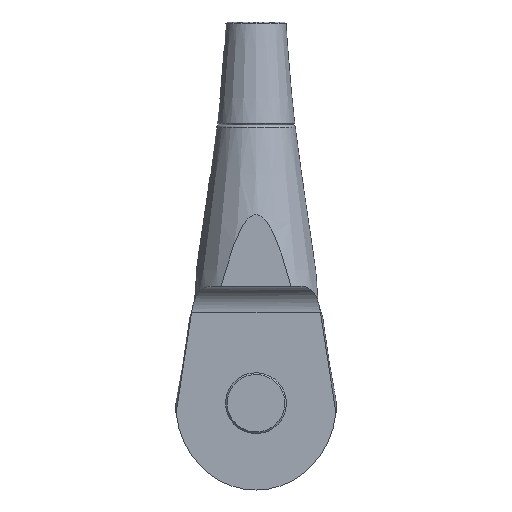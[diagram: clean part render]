
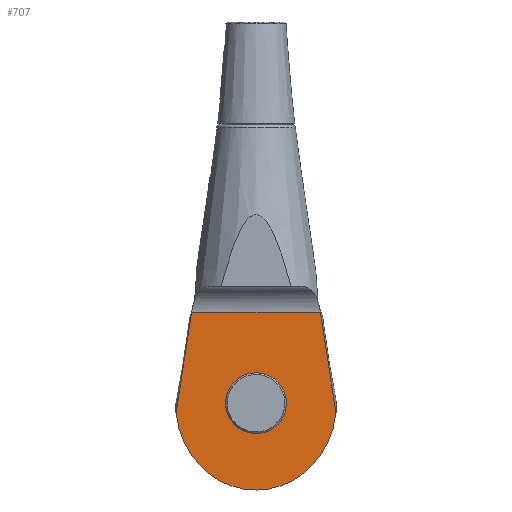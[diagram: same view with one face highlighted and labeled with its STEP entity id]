
A CAD part, front view. The second image highlights one B-rep face of the part: STEP entity #707.
In plain terms, the highlighted planar face has unit normal (0, -1, 0).
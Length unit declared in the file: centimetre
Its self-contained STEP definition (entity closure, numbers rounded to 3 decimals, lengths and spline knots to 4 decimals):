
#32=(
BOUNDED_CURVE()
B_SPLINE_CURVE(2,(#1158,#1159,#1160),.UNSPECIFIED.,.F.,.F.)
B_SPLINE_CURVE_WITH_KNOTS((3,3),(0.,13.5301),.UNSPECIFIED.)
CURVE()
GEOMETRIC_REPRESENTATION_ITEM()
RATIONAL_B_SPLINE_CURVE((1.,1.009,1.007))
REPRESENTATION_ITEM('')
);
#36=(
BOUNDED_CURVE()
B_SPLINE_CURVE(2,(#1276,#1277,#1278),.UNSPECIFIED.,.F.,.F.)
B_SPLINE_CURVE_WITH_KNOTS((3,3),(8.6268,22.1568),
 .UNSPECIFIED.)
CURVE()
GEOMETRIC_REPRESENTATION_ITEM()
RATIONAL_B_SPLINE_CURVE((1.007,1.009,1.))
REPRESENTATION_ITEM('')
);
#53=LINE('',#1328,#73);
#73=VECTOR('',#972,15.8793);
#124=FACE_BOUND('',#239,.T.);
#168=FACE_OUTER_BOUND('',#238,.T.);
#238=EDGE_LOOP('',(#555,#556,#557,#558,#559,#560));
#239=EDGE_LOOP('',(#561));
#284=CIRCLE('',#784,3.35);
#286=CIRCLE('',#787,11.269);
#288=CIRCLE('',#790,11.269);
#290=CIRCLE('',#793,9.4);
#334=VERTEX_POINT('',#1134);
#335=VERTEX_POINT('',#1157);
#346=VERTEX_POINT('',#1262);
#347=VERTEX_POINT('',#1275);
#349=VERTEX_POINT('',#1308);
#351=VERTEX_POINT('',#1313);
#353=VERTEX_POINT('',#1319);
#403=EDGE_CURVE('',#334,#335,#32,.T.);
#415=EDGE_CURVE('',#346,#347,#36,.T.);
#420=EDGE_CURVE('',#349,#349,#284,.T.);
#422=EDGE_CURVE('',#346,#351,#286,.T.);
#425=EDGE_CURVE('',#353,#335,#288,.T.);
#428=EDGE_CURVE('',#351,#353,#290,.T.);
#430=EDGE_CURVE('',#334,#347,#53,.T.);
#555=ORIENTED_EDGE('',*,*,#422,.T.);
#556=ORIENTED_EDGE('',*,*,#428,.T.);
#557=ORIENTED_EDGE('',*,*,#425,.T.);
#558=ORIENTED_EDGE('',*,*,#403,.F.);
#559=ORIENTED_EDGE('',*,*,#430,.T.);
#560=ORIENTED_EDGE('',*,*,#415,.F.);
#561=ORIENTED_EDGE('',*,*,#420,.T.);
#613=PLANE('',#795);
#707=ADVANCED_FACE('',(#168,#124),#613,.F.);
#784=AXIS2_PLACEMENT_3D('',#1309,#946,#947);
#787=AXIS2_PLACEMENT_3D('',#1314,#952,#953);
#790=AXIS2_PLACEMENT_3D('',#1320,#959,#960);
#793=AXIS2_PLACEMENT_3D('',#1325,#966,#967);
#795=AXIS2_PLACEMENT_3D('',#1327,#970,#971);
#946=DIRECTION('center_axis',(0.,1.,0.));
#947=DIRECTION('ref_axis',(0.,0.,
1.));
#952=DIRECTION('center_axis',(0.,-1.,0.));
#953=DIRECTION('ref_axis',(-1.,0.,0.));
#959=DIRECTION('center_axis',(0.,-1.,0.));
#960=DIRECTION('ref_axis',(0.718,0.,-0.696));
#966=DIRECTION('center_axis',(0.,-1.,0.));
#967=DIRECTION('ref_axis',(-0.718,0.,-0.696));
#970=DIRECTION('center_axis',(0.,1.,0.));
#971=DIRECTION('ref_axis',(0.,0.,
1.));
#972=DIRECTION('',(-1.,0.,0.));
#1134=CARTESIAN_POINT('',(7.9397,-2.25,-23.1));
#1157=CARTESIAN_POINT('',(9.8578,-2.25,-35.5391));
#1158=CARTESIAN_POINT('Ctrl Pts',(7.9397,-2.25,-23.1));
#1159=CARTESIAN_POINT('Ctrl Pts',(8.8017,-2.25,-28.6492));
#1160=CARTESIAN_POINT('Ctrl Pts',(9.8578,-2.25,-35.5391));
#1262=CARTESIAN_POINT('',(-9.8578,-2.25,-35.5391));
#1275=CARTESIAN_POINT('',(-7.9397,-2.25,-23.1));
#1276=CARTESIAN_POINT('Ctrl Pts',(-9.8578,-2.25,-35.5391));
#1277=CARTESIAN_POINT('Ctrl Pts',(-8.8017,-2.25,-28.6492));
#1278=CARTESIAN_POINT('Ctrl Pts',(-7.9397,-2.25,-23.1));
#1308=CARTESIAN_POINT('',(0.,-2.25,-37.65));
#1309=CARTESIAN_POINT('Origin',(0.,-2.25,-34.3));
#1313=CARTESIAN_POINT('',(-6.7537,-2.25,-42.1381));
#1314=CARTESIAN_POINT('Origin',(1.3429,-2.25,-34.3));
#1319=CARTESIAN_POINT('',(6.7537,-2.25,-42.1381));
#1320=CARTESIAN_POINT('Origin',(-1.3429,-2.25,-34.3));
#1325=CARTESIAN_POINT('Origin',(0.,-2.25,
-35.6));
#1327=CARTESIAN_POINT('Origin',(0.,-2.25,
-45.));
#1328=CARTESIAN_POINT('',(0.,-2.25,-23.1));
